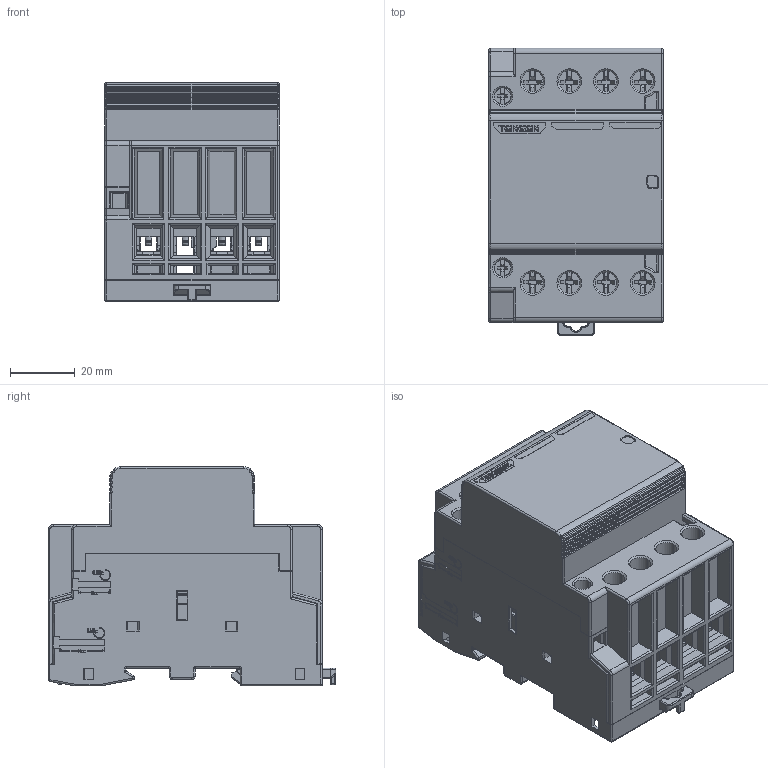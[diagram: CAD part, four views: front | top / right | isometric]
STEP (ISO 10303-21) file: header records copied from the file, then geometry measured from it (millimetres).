
FILE_DESCRIPTION (( 'STEP AP214' ), '1' );
FILE_NAME ('TGCH1N-4031.STEP', '2025-12-12T12:19:29', ( '' ), ( '' ), 'SwSTEP 2.0', 'SolidWorks 2024', '' );
FILE_SCHEMA (( 'AUTOMOTIVE_DESIGN' ));
Length unit declared in the file: millimetre
Products named in the file (11): 2TZD_401_6003_SW0001_4_1.stp; 2TZD_401_6003_SW0001_9_1.stp; 2TZD_401_6003_SW0001_7_1.stp; TGCH1N-4031; 2TZD_401_6003_SW0001_6_1.stp; 2TZD_401_6003_SW0001_8_1.stp; 2TZD_401_6003_SW0001_5_1.stp; TGCH1N-4031.stp; 2TZD_401_6003_SW0001_3_1.stp; 2TZD_401_6003_SW0001_2_1.stp; 2TZD_401_6003_SW0001_1_1.stp
Assembly tree (10 placements, depth 3):
  TGCH1N-4031
    TGCH1N-4031.stp
      2TZD_401_6003_SW0001_1_1.stp
      2TZD_401_6003_SW0001_2_1.stp
      2TZD_401_6003_SW0001_3_1.stp
      2TZD_401_6003_SW0001_4_1.stp
      2TZD_401_6003_SW0001_5_1.stp
      2TZD_401_6003_SW0001_6_1.stp
      2TZD_401_6003_SW0001_7_1.stp
      2TZD_401_6003_SW0001_8_1.stp
      2TZD_401_6003_SW0001_9_1.stp
Bounding box: 54 x 89.1 x 68.15 mm (x, y, z)
Volume: 78817.7 mm3; surface area: 108962.4 mm2
Topology: 9 solids, 9 shells, 5835 faces, 16097 edges, 10099 vertices
Faces by surface type: plane 3570, cylinder 1520, torus 258, bspline 181, sphere 165, cone 141
Entity records: 205507 total; most frequent: CARTESIAN_POINT 58332, ORIENTED_EDGE 31880, DIRECTION 28935, EDGE_CURVE 15940, LINE 11655, VECTOR 11655, VERTEX_POINT 10100, AXIS2_PLACEMENT_3D 8640
